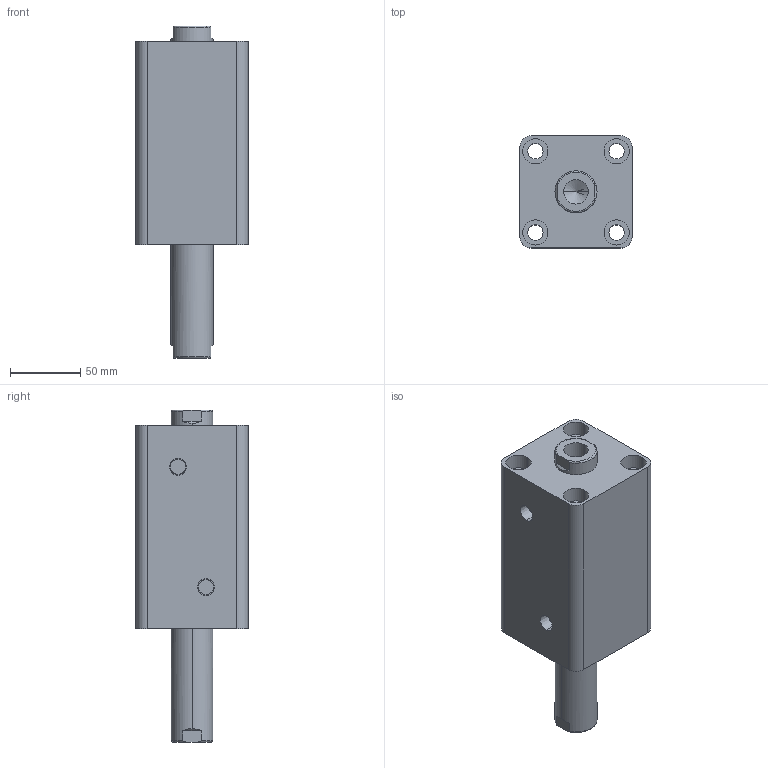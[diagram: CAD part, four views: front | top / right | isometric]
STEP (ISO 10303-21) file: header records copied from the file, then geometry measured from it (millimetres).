
FILE_DESCRIPTION (( 'STEP AP203' ), '1' );
FILE_NAME ('HTB-SW50-70N.STEP', '2019-10-07T09:23:18', ( '微软用户' ), ( '微软中国' ), 'SwSTEP 2.0', 'SolidWorks 2012', '' );
FILE_SCHEMA (( 'CONFIG_CONTROL_DESIGN' ));
Length unit declared in the file: millimetre
Products named in the file (3): HTB-SW50-70N; HTB-SW50-70N活塞杆; HTB-SW50-70掛极
Assembly tree (2 placements, depth 2):
  HTB-SW50-70N
    HTB-SW50-70掛极
    HTB-SW50-70N活塞杆
Bounding box: 80 x 80 x 237 mm (x, y, z)
Volume: 812571.5 mm3; surface area: 129779.9 mm2
Topology: 2 solids, 2 shells, 100 faces, 228 edges, 146 vertices
Faces by surface type: cylinder 48, plane 32, torus 12, cone 8
Entity records: 3237 total; most frequent: CARTESIAN_POINT 595, DIRECTION 542, ORIENTED_EDGE 448, AXIS2_PLACEMENT_3D 229, EDGE_CURVE 224, VERTEX_POINT 146, EDGE_LOOP 128, CIRCLE 124
